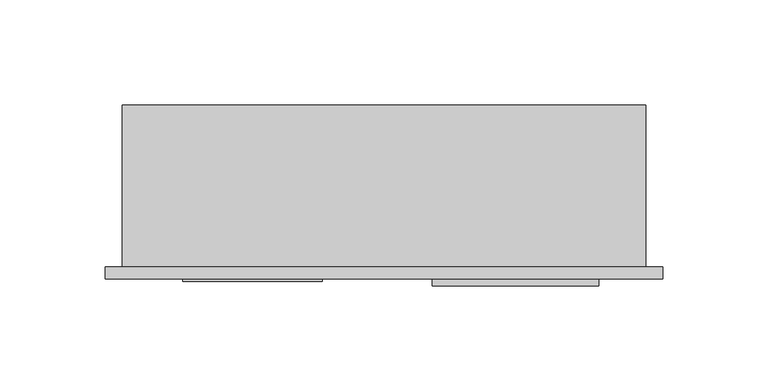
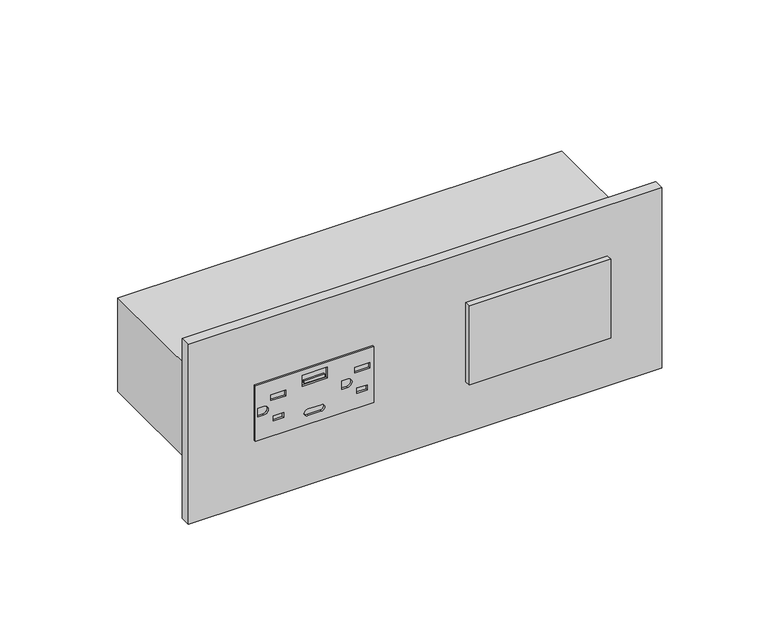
"""IFC4 building model written with IfcOpenShell, lengths in millimetres: proxy geometry, Electrical-Teknion-EPDHD_Horizontal_Power_Data_Double-R2019 : PD Horizontal Module - Double 15 Amp USB (A+C)."""

from ifc_helpers import new_model, si_unit, point, frame, frame_2d, origin, place, context, project, spatial, polyline, circle_curve, trimmed, segment, composite_curve, outline, extrude, source, transform, mapped, element, save


def electrical_fixtures_9293c94c(model_context):
    return source(origin(), model_context, "Body", "SweptSolid", [
        extrude(outline(polyline([(821.6131229, 95.1883983), (854.6077229, 95.1883983), (854.6077229, 28.6403983), (821.6131229, 28.6403983), (821.6131229, 95.1883983)]), holes=[polyline([(842.7521499, 92.7422735), (842.7521499, 84.4265232), (846.0795499, 84.4265232), (846.0795499, 92.7422735), (842.7521499, 92.7422735)]), polyline([(830.2973829, 91.4959746), (830.2973829, 85.6728221), (833.2717229, 85.6728221), (833.2717229, 91.4959746), (830.2973829, 91.4959746)]), composite_curve([segment(polyline([(835.6466229, 77.1543983), (840.5742229, 77.1543983), (840.5742229, 80.4516358)]), True, "CONTINUOUS"), segment(trimmed(circle_curve(frame_2d((838.1104229, 80.4516358)), 2.4638), [point((840.5742229, 80.4516358))], [point((835.6466229, 80.4516358))], True, "CARTESIAN"), True, "CONTINUOUS"), segment(polyline([(835.6466229, 80.4516358), (835.6466229, 77.1543983)]), True, "CONTINUOUS")], self_intersect=False), polyline([(842.7521499, 45.7522735), (842.7521499, 37.4365232), (846.0827049, 37.4365232), (846.0827049, 45.7522735), (842.7521499, 45.7522735)]), polyline([(830.3161837, 44.5059746), (830.3161837, 38.6828221), (833.2906533, 38.6828221), (833.2906533, 44.5059746), (830.3161837, 44.5059746)]), composite_curve([segment(polyline([(835.6466229, 30.1643983), (840.5742229, 30.1643983), (840.5742229, 33.5112452)]), True, "CONTINUOUS"), segment(trimmed(circle_curve(frame_2d((838.1104229, 33.5112452)), 2.4638), [point((840.5742229, 33.5112452))], [point((835.6466229, 33.5112452))], True, "CARTESIAN"), True, "CONTINUOUS"), segment(polyline([(835.6466229, 33.5112452), (835.6466229, 30.1643983)]), True, "CONTINUOUS")], self_intersect=False), polyline([(845.1828612, 68.9581973), (845.1828612, 54.8644614), (851.6839163, 54.8644614), (851.6839163, 68.9581973), (845.1828612, 68.9581973)]), composite_curve([segment(trimmed(circle_curve(frame_2d((828.5727229, 58.1297983)), 1.905), [point((826.6677229, 58.1297983))], [point((830.4777229, 58.1297983))], True, "CARTESIAN"), True, "CONTINUOUS"), segment(polyline([(830.4777229, 58.1297983), (830.4777229, 65.6989983)]), True, "CONTINUOUS"), segment(trimmed(circle_curve(frame_2d((828.5727229, 65.6989983)), 1.905), [point((830.4777229, 65.6989983))], [point((826.6677229, 65.6989983))], True, "CARTESIAN"), True, "CONTINUOUS"), segment(polyline([(826.6677229, 65.6989983), (826.6677229, 58.1297983)]), True, "CONTINUOUS")], self_intersect=False)]), frame((0.0, -6.9294746, 0.0), z_axis=(0.0, 1.0, 0.0), x_axis=(0.0, 0.0, 1.0)), (0.0, 0.0, 1.0), 1.0366746),
        extrude(outline(polyline([(67.6331469, -6.9294746), (56.1895117, -6.9294746), (56.1895117, -5.8928), (67.6331469, -5.8928), (67.6331469, -6.9294746)])), frame((0.0, 0.0, 846.3926879), z_axis=(0.0, 0.0, 1.0), x_axis=(1.0, 0.0, 0.0)), (0.0, 0.0, 1.0), 1.5209293),
        extrude(outline(polyline([(147.3082675, -5.8928), (226.6832675, -5.8928), (226.6832675, -9.0678), (147.3082675, -9.0678), (147.3082675, -5.8928)])), frame((0.0, 0.0, 814.8854229), z_axis=(0.0, 0.0, 1.0), x_axis=(1.0, 0.0, 0.0)), (0.0, 0.0, 1.0), 46.863),
        extrude(outline(polyline([(-8.2450977, 0.0), (257.1652913, 0.0), (257.1652913, -5.8928), (-8.2450977, -5.8928), (-8.2450977, 0.0)])), frame((0.0, 0.0, 784.6718508), z_axis=(0.0, 0.0, 1.0), x_axis=(1.0, 0.0, 0.0)), (0.0, 0.0, 1.0), 106.8771443),
        extrude(outline(polyline([(248.92, 0.0), (0.0, 0.0), (0.0, 77.054), (248.92, 77.054), (248.92, 0.0)])), frame((0.0, 0.0, 810.3355229), z_axis=(0.0, 0.0, 1.0), x_axis=(1.0, 0.0, 0.0)), (0.0, 0.0, 1.0), 55.5498),
    ])


if __name__ == "__main__":
    model = new_model("IFC4")
    model_context = context("Model", 3, world=origin())
    ifc_project = project(units=[si_unit("LENGTHUNIT", "METRE", prefix="MILLI")], contexts=[model_context])
    site = spatial("IfcSite", under=ifc_project)
    building = spatial("IfcBuilding", under=site)
    placement = place(None, origin())
    electrical_fixtures_shape = electrical_fixtures_9293c94c(model_context)
    element("IfcBuildingElementProxy", 1, Name="Electrical-Teknion-EPDHD_Horizontal_Power_Data_Double-R2019 : PD Horizontal Module - Double 15 Amp USB (A+C)", ObjectType="Electrical-Teknion-EPDHD_Horizontal_Power_Data_Double-R2019 : PD Horizontal Module - Double 15 Amp USB (A+C)", at=placement, inside=building, context=model_context, shape_type="MappedRepresentation", body=[
        mapped(electrical_fixtures_shape, transform((0.0, 0.0, 0.0), x_axis=(1.0, 0.0, 0.0), y_axis=(0.0, 1.0, 0.0), z_axis=(0.0, 0.0, 1.0))),
    ])
    save(model, "model.ifc")
